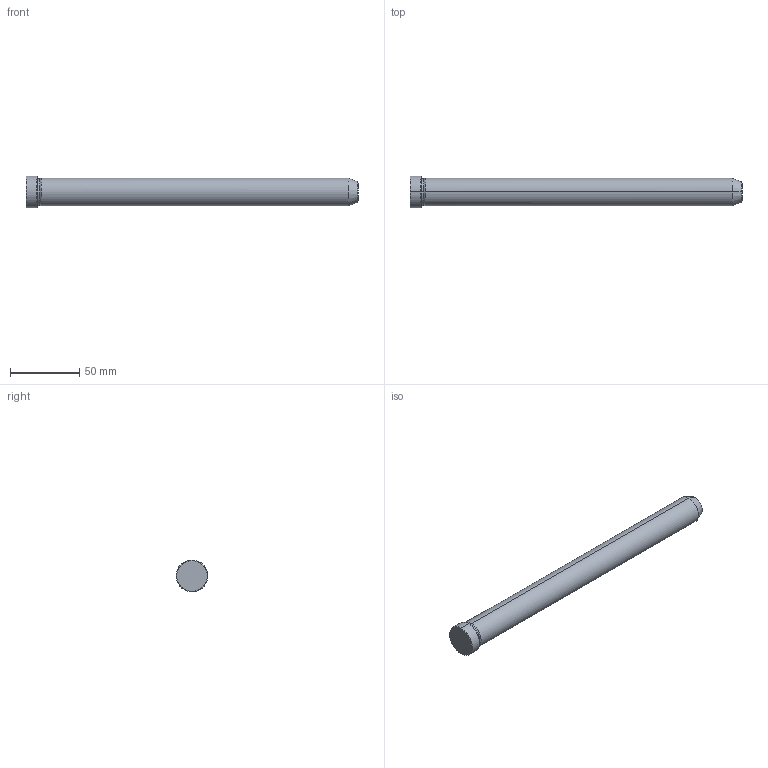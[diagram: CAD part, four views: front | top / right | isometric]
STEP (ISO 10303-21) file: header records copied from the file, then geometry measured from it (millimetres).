
FILE_DESCRIPTION(('CATIA V5 STEP Exchange'),'2;1');
FILE_NAME('C:\Users\Utente\Desktop\IO LAVORO\3D X SITO CF\X SITO\PLASTICA\549\549-20X240.stp','2021-12-11T09:56:11+00:00',('none'),('none'),'CATIA Version 5 Release 20 GA (IN-10)','CATIA V5 STEP AP203','none');
FILE_SCHEMA(('CONFIG_CONTROL_DESIGN'));
Length unit declared in the file: millimetre
Products named in the file (1): 549-20X240
Bounding box: 240 x 23 x 23 mm (x, y, z)
Volume: 75560.8 mm3; surface area: 15798.9 mm2
Topology: 1 solids, 1 shells, 19 faces, 56 edges, 40 vertices
Faces by surface type: cone 8, cylinder 6, plane 3, torus 2
Entity records: 736 total; most frequent: CARTESIAN_POINT 192, ORIENTED_EDGE 112, DIRECTION 86, EDGE_CURVE 56, AXIS2_PLACEMENT_3D 54, VERTEX_POINT 40, CIRCLE 34, EDGE_LOOP 20
